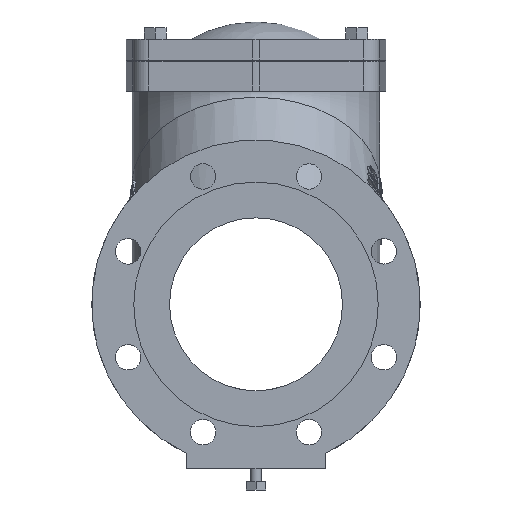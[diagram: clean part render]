
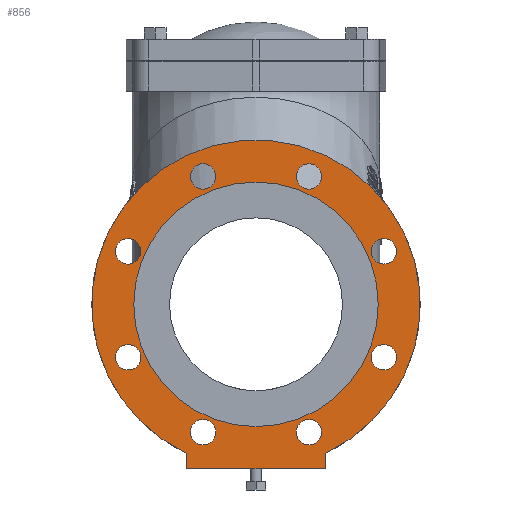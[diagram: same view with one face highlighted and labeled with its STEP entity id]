
A CAD part, front view. The second image highlights one B-rep face of the part: STEP entity #856.
In plain terms, the highlighted planar face has unit normal (0, -1, 0).
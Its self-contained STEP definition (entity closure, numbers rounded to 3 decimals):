
#856 = ADVANCED_FACE( '', ( #1873, #1874, #1875, #1876, #1877, #1878, #1879, #1880, #1881, #1882 ), #1883, .F. );
#1873 = FACE_OUTER_BOUND( '', #9912, .T. );
#1874 = FACE_BOUND( '', #9913, .T. );
#1875 = FACE_BOUND( '', #9914, .T. );
#1876 = FACE_BOUND( '', #9915, .T. );
#1877 = FACE_BOUND( '', #9916, .T. );
#1878 = FACE_BOUND( '', #9917, .T. );
#1879 = FACE_BOUND( '', #9918, .T. );
#1880 = FACE_BOUND( '', #9919, .T. );
#1881 = FACE_BOUND( '', #9920, .T. );
#1882 = FACE_BOUND( '', #9921, .T. );
#1883 = PLANE( '', #9922 );
#9912 = EDGE_LOOP( '', ( #13596, #13597, #13598, #13599 ) );
#9913 = EDGE_LOOP( '', ( #13600 ) );
#9914 = EDGE_LOOP( '', ( #13601 ) );
#9915 = EDGE_LOOP( '', ( #13602 ) );
#9916 = EDGE_LOOP( '', ( #13603 ) );
#9917 = EDGE_LOOP( '', ( #13604 ) );
#9918 = EDGE_LOOP( '', ( #13605 ) );
#9919 = EDGE_LOOP( '', ( #13606 ) );
#9920 = EDGE_LOOP( '', ( #13607 ) );
#9921 = EDGE_LOOP( '', ( #13608 ) );
#9922 = AXIS2_PLACEMENT_3D( '', #13609, #13610, #13611 );
#13596 = ORIENTED_EDGE( '', *, *, #14924, .T. );
#13597 = ORIENTED_EDGE( '', *, *, #15063, .T. );
#13598 = ORIENTED_EDGE( '', *, *, #15064, .T. );
#13599 = ORIENTED_EDGE( '', *, *, #15065, .T. );
#13600 = ORIENTED_EDGE( '', *, *, #15015, .F. );
#13601 = ORIENTED_EDGE( '', *, *, #14900, .T. );
#13602 = ORIENTED_EDGE( '', *, *, #14915, .T. );
#13603 = ORIENTED_EDGE( '', *, *, #15002, .T. );
#13604 = ORIENTED_EDGE( '', *, *, #15066, .T. );
#13605 = ORIENTED_EDGE( '', *, *, #14130, .T. );
#13606 = ORIENTED_EDGE( '', *, *, #15067, .T. );
#13607 = ORIENTED_EDGE( '', *, *, #15068, .T. );
#13608 = ORIENTED_EDGE( '', *, *, #14277, .T. );
#13609 = CARTESIAN_POINT( '', ( 0., -197., 106. ) );
#13610 = DIRECTION( '', ( 0., 1., 0. ) );
#13611 = DIRECTION( '', ( 0., 0., 1. ) );
#14130 = EDGE_CURVE( '', #15251, #15251, #15252, .T. );
#14277 = EDGE_CURVE( '', #15507, #15507, #15508, .T. );
#14900 = EDGE_CURVE( '', #16459, #16459, #16460, .T. );
#14915 = EDGE_CURVE( '', #16478, #16478, #16479, .T. );
#14924 = EDGE_CURVE( '', #16489, #16487, #16490, .T. );
#15002 = EDGE_CURVE( '', #16587, #16587, #16588, .T. );
#15015 = EDGE_CURVE( '', #16602, #16602, #16603, .T. );
#15063 = EDGE_CURVE( '', #16487, #16658, #16659, .T. );
#15064 = EDGE_CURVE( '', #16658, #16660, #16661, .T. );
#15065 = EDGE_CURVE( '', #16660, #16489, #16662, .T. );
#15066 = EDGE_CURVE( '', #16663, #16663, #16664, .T. );
#15067 = EDGE_CURVE( '', #16665, #16665, #16666, .T. );
#15068 = EDGE_CURVE( '', #16667, #16667, #16668, .T. );
#15251 = VERTEX_POINT( '', #17665 );
#15252 = CIRCLE( '', #17666, 11. );
#15507 = VERTEX_POINT( '', #18711 );
#15508 = CIRCLE( '', #18712, 11. );
#16459 = VERTEX_POINT( '', #24480 );
#16460 = CIRCLE( '', #24481, 11. );
#16478 = VERTEX_POINT( '', #24515 );
#16479 = CIRCLE( '', #24516, 11. );
#16487 = VERTEX_POINT( '', #24529 );
#16489 = VERTEX_POINT( '', #24532 );
#16490 = LINE( '', #24533, #24534 );
#16587 = VERTEX_POINT( '', #24775 );
#16588 = CIRCLE( '', #24776, 11. );
#16602 = VERTEX_POINT( '', #24795 );
#16603 = CIRCLE( '', #24796, 106. );
#16658 = VERTEX_POINT( '', #24877 );
#16659 = LINE( '', #24878, #24879 );
#16660 = VERTEX_POINT( '', #24880 );
#16661 = CIRCLE( '', #24881, 142.5 );
#16662 = LINE( '', #24882, #24883 );
#16663 = VERTEX_POINT( '', #24884 );
#16664 = CIRCLE( '', #24885, 11. );
#16665 = VERTEX_POINT( '', #24886 );
#16666 = CIRCLE( '', #24887, 11. );
#16667 = VERTEX_POINT( '', #24888 );
#16668 = CIRCLE( '', #24889, 11. );
#17665 = CARTESIAN_POINT( '', ( -38.144, -197., -103.087 ) );
#17666 = AXIS2_PLACEMENT_3D( '', #25065, #25066, #25067 );
#18711 = CARTESIAN_POINT( '', ( -45.922, -197., 99.866 ) );
#18712 = AXIS2_PLACEMENT_3D( '', #25161, #25162, #25163 );
#24480 = CARTESIAN_POINT( '', ( 38.144, -197., 103.087 ) );
#24481 = AXIS2_PLACEMENT_3D( '', #25483, #25484, #25485 );
#24515 = CARTESIAN_POINT( '', ( 99.866, -197., 45.922 ) );
#24516 = AXIS2_PLACEMENT_3D( '', #25495, #25496, #25497 );
#24529 = CARTESIAN_POINT( '', ( 60., -197., -142.5 ) );
#24532 = CARTESIAN_POINT( '', ( -60., -197., -142.5 ) );
#24533 = CARTESIAN_POINT( '', ( -60., -197., -142.5 ) );
#24534 = VECTOR( '', #25502, 1000. );
#24775 = CARTESIAN_POINT( '', ( 103.087, -197., -38.144 ) );
#24776 = AXIS2_PLACEMENT_3D( '', #25566, #25567, #25568 );
#24795 = CARTESIAN_POINT( '', ( 0., -197., -106. ) );
#24796 = AXIS2_PLACEMENT_3D( '', #25572, #25573, #25574 );
#24877 = CARTESIAN_POINT( '', ( 60., -197., -129.253 ) );
#24878 = CARTESIAN_POINT( '', ( 60., -197., -142.5 ) );
#24879 = VECTOR( '', #25606, 1000. );
#24880 = CARTESIAN_POINT( '', ( -60., -197., -129.253 ) );
#24881 = AXIS2_PLACEMENT_3D( '', #25607, #25608, #25609 );
#24882 = CARTESIAN_POINT( '', ( -60., -197., -142.5 ) );
#24883 = VECTOR( '', #25610, 1000. );
#24884 = CARTESIAN_POINT( '', ( 45.922, -197., -99.866 ) );
#24885 = AXIS2_PLACEMENT_3D( '', #25611, #25612, #25613 );
#24886 = CARTESIAN_POINT( '', ( -99.866, -197., -45.922 ) );
#24887 = AXIS2_PLACEMENT_3D( '', #25614, #25615, #25616 );
#24888 = CARTESIAN_POINT( '', ( -103.087, -197., 38.144 ) );
#24889 = AXIS2_PLACEMENT_3D( '', #25617, #25618, #25619 );
#25065 = CARTESIAN_POINT( '', ( -45.922, -197., -110.866 ) );
#25066 = DIRECTION( '', ( 0., 1., 0. ) );
#25067 = DIRECTION( '', ( 0.707, 0., 0.707 ) );
#25161 = CARTESIAN_POINT( '', ( -45.922, -197., 110.866 ) );
#25162 = DIRECTION( '', ( 0., 1., 0. ) );
#25163 = DIRECTION( '', ( 0., 0., -1. ) );
#25483 = CARTESIAN_POINT( '', ( 45.922, -197., 110.866 ) );
#25484 = DIRECTION( '', ( 0., 1., 0. ) );
#25485 = DIRECTION( '', ( -0.707, 0., -0.707 ) );
#25495 = CARTESIAN_POINT( '', ( 110.866, -197., 45.922 ) );
#25496 = DIRECTION( '', ( 0., 1., 0. ) );
#25497 = DIRECTION( '', ( -1., 0., 0. ) );
#25502 = DIRECTION( '', ( 1., 0., 0. ) );
#25566 = CARTESIAN_POINT( '', ( 110.866, -197., -45.922 ) );
#25567 = DIRECTION( '', ( 0., 1., 0. ) );
#25568 = DIRECTION( '', ( -0.707, 0., 0.707 ) );
#25572 = CARTESIAN_POINT( '', ( 0., -197., 0. ) );
#25573 = DIRECTION( '', ( 0., -1., 0. ) );
#25574 = DIRECTION( '', ( 0., 0., -1. ) );
#25606 = DIRECTION( '', ( 0., 0., 1. ) );
#25607 = CARTESIAN_POINT( '', ( 0., -197., 0. ) );
#25608 = DIRECTION( '', ( 0., -1., 0. ) );
#25609 = DIRECTION( '', ( 0., 0., -1. ) );
#25610 = DIRECTION( '', ( 0., 0., -1. ) );
#25611 = CARTESIAN_POINT( '', ( 45.922, -197., -110.866 ) );
#25612 = DIRECTION( '', ( 0., 1., 0. ) );
#25613 = DIRECTION( '', ( 0., 0., 1. ) );
#25614 = CARTESIAN_POINT( '', ( -110.866, -197., -45.922 ) );
#25615 = DIRECTION( '', ( 0., 1., 0. ) );
#25616 = DIRECTION( '', ( 1., 0., 0. ) );
#25617 = CARTESIAN_POINT( '', ( -110.866, -197., 45.922 ) );
#25618 = DIRECTION( '', ( 0., 1., 0. ) );
#25619 = DIRECTION( '', ( 0.707, 0., -0.707 ) );
